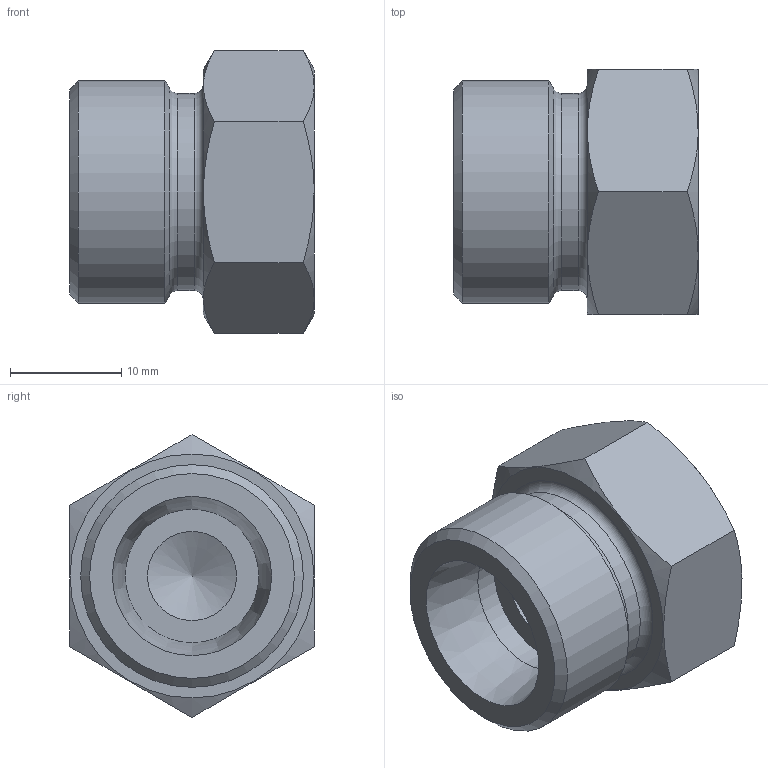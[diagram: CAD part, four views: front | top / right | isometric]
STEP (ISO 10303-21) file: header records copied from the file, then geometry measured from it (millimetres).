
FILE_DESCRIPTION( ( 'Unknown' ), '1' );
FILE_NAME( 'C:/Users/p.nanko/Desktop/3D SR/XROV12S.stp', 'Unknown', ( 'Peter Nanko' ), ( 'Armaturen Arndt' ), 'PSStep 14.0', 'Solid Edge ST4', ' ' );
FILE_SCHEMA( ( 'AUTOMOTIVE_DESIGN { 1 0 10303 214 1 1 1 1 }' ) );
Length unit declared in the file: millimetre
Products named in the file (1): 1
Bounding box: 22 x 22 x 25.4 mm (x, y, z)
Volume: 6232.8 mm3; surface area: 2846.9 mm2
Topology: 1 solids, 1 shells, 22 faces, 48 edges, 30 vertices
Faces by surface type: plane 10, cone 6, cylinder 4, torus 2
Full cylindrical faces by diameter (mm): 8 x1, 12 x1, 17.7 x1, 20 x1
Entity records: 806 total; most frequent: CARTESIAN_POINT 214, DIRECTION 80, ORIENTED_EDGE 64, AXIS2_PLACEMENT_3D 37, EDGE_LOOP 36, EDGE_CURVE 32, FACE_OUTER_BOUND 28, VERTEX_POINT 27
